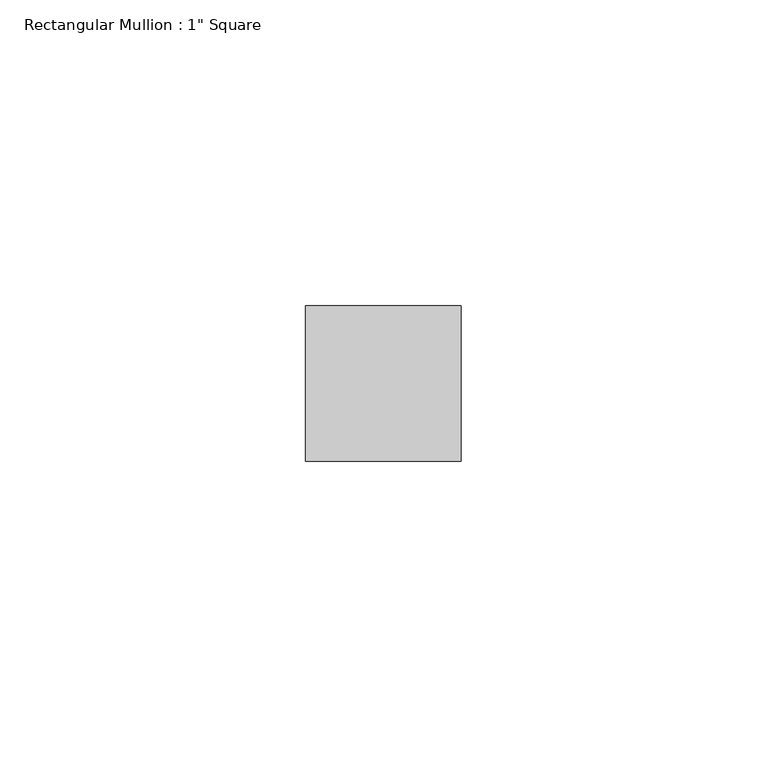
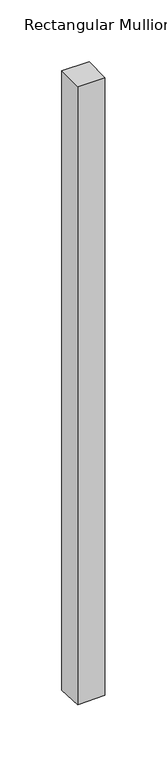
"""IFC4 building model written with IfcOpenShell, lengths in millimetres: member geometry."""

import ifcopenshell
import ifcopenshell.guid

model = None  # the IFC model being written
_history = None  # IfcOwnerHistory: only IFC2X3 demands one
_inside = {}  # id of a spatial element -> (the spatial element, [elements in it])
_under = {}  # id of a project, library or spatial element -> (it, [spatial elements below it])
_declared = {}  # id of a project -> (the project, [libraries it declares])
_typed = {}  # id of a type object -> (the type object, [elements of that type])
_made_of = {}  # id of a material, layer set ... -> (it, [elements and type objects made of it])


def new_model(schema):
    """Start an empty IFC model of exactly this schema.

    Asked for "IFC4X3", IfcOpenShell would pick the latest addendum, in which some entities
    have other attributes; the version numbers below select the first issue.
    IFC2X3 requires an IfcOwnerHistory on every rooted entity: one is made here for all.
    """
    global model, _history
    if schema == "IFC4X3":
        model = ifcopenshell.file(schema_version=(4, 3, 0, 0))
    else:
        model = ifcopenshell.file(schema=schema)
    _inside.clear()
    _under.clear()
    _declared.clear()
    _typed.clear()
    _made_of.clear()
    _history = None
    if model.schema == "IFC2X3":
        org = make("IfcOrganization", Name="unknown")
        user = make(
            "IfcPersonAndOrganization",
            ThePerson=make("IfcPerson", FamilyName="unknown"),
            TheOrganization=org,
        )
        app = make(
            "IfcApplication",
            ApplicationDeveloper=org,
            Version="unknown",
            ApplicationFullName="unknown",
            ApplicationIdentifier="unknown",
        )
        _history = make(
            "IfcOwnerHistory",
            OwningUser=user,
            OwningApplication=app,
            ChangeAction="ADDED",
            CreationDate=0,
        )
    return model


def make(cls, **values):
    """One entity of the class cls with the attributes given. An attribute that is None is left unset."""
    return model.create_entity(
        cls, **{name: value for name, value in values.items() if value is not None}
    )


def rooted(cls, **values):
    """An entity with a GlobalId (a new one), such as an element, a storey or a relation."""
    return make(cls, GlobalId=ifcopenshell.guid.new(), OwnerHistory=_history, **values)


def si_unit(unit_type, name, prefix=None):
    """IfcSIUnit, for example si_unit("LENGTHUNIT", "METRE", prefix="MILLI")."""
    return make("IfcSIUnit", UnitType=unit_type, Prefix=prefix, Name=name)


def assignment(units):
    """IfcUnitAssignment: the units of a project."""
    return None if units is None else make("IfcUnitAssignment", Units=units)


def point(xyz):
    """IfcCartesianPoint."""
    return None if xyz is None else make("IfcCartesianPoint", Coordinates=xyz)


def direction(xyz):
    """IfcDirection."""
    return None if xyz is None else make("IfcDirection", DirectionRatios=xyz)


def frame(location, z_axis=None, x_axis=None):
    """IfcAxis2Placement3D, a coordinate frame: its origin and axes. An axis left out is left unset."""
    return make(
        "IfcAxis2Placement3D",
        Location=point(location),
        Axis=direction(z_axis),
        RefDirection=direction(x_axis),
    )


def origin():
    """The frame at (0, 0, 0) with its axes left unset."""
    return frame((0.0, 0.0, 0.0))


def place(relative_to, where):
    """IfcLocalPlacement: puts the frame where relative to a parent placement (None: the world)."""
    return make(
        "IfcLocalPlacement", PlacementRelTo=relative_to, RelativePlacement=where
    )


def context(
    kind, dimensions, precision=None, world=None, true_north=None, identifier=None
):
    """IfcGeometricRepresentationContext, for example the 3D "Model" context."""
    return make(
        "IfcGeometricRepresentationContext",
        ContextIdentifier=identifier,
        ContextType=kind,
        CoordinateSpaceDimension=dimensions,
        Precision=precision,
        WorldCoordinateSystem=world,
        TrueNorth=true_north,
    )


def project(units=None, contexts=None):
    """IfcProject with its units and contexts."""
    return rooted(
        "IfcProject",
        Name="project",
        RepresentationContexts=contexts,
        UnitsInContext=assignment(units),
    )


def spatial(cls, under=None, at=None, **own):
    """A site, building, storey or space (cls), placed at a placement, below another one or the project."""
    s = rooted(cls, ObjectPlacement=at, **own)
    if under is not None:
        _under.setdefault(under.id(), (under, []))[1].append(s)
    return s


def polyline(points):
    """IfcPolyline through the points."""
    return make("IfcPolyline", Points=[point(p) for p in points])


def outline(outer, holes=None, kind="AREA"):
    """IfcArbitraryClosedProfileDef: a profile drawn as a closed curve; with holes, ...WithVoids."""
    if holes is None:
        return make("IfcArbitraryClosedProfileDef", ProfileType=kind, OuterCurve=outer)
    return make(
        "IfcArbitraryProfileDefWithVoids",
        ProfileType=kind,
        OuterCurve=outer,
        InnerCurves=holes,
    )


def extrude(swept, where, along, depth):
    """IfcExtrudedAreaSolid: the profile swept, set in the frame where, extruded along a direction by depth."""
    return make(
        "IfcExtrudedAreaSolid",
        SweptArea=swept,
        Position=where,
        ExtrudedDirection=direction(along),
        Depth=depth,
    )


def shape(context_of_items, identifier, shape_type, items):
    """IfcShapeRepresentation: the items that make up one representation, for example the "Body"."""
    return make(
        "IfcShapeRepresentation",
        ContextOfItems=context_of_items,
        RepresentationIdentifier=identifier,
        RepresentationType=shape_type,
        Items=items,
    )


def source(mapping_origin, context_of_items, identifier, shape_type, items):
    """IfcRepresentationMap: a shape defined once, which mapped items show again and again."""
    return make(
        "IfcRepresentationMap",
        MappingOrigin=mapping_origin,
        MappedRepresentation=shape(context_of_items, identifier, shape_type, items),
    )


def transform(
    local_origin,
    x_axis=None,
    y_axis=None,
    z_axis=None,
    scale=None,
    scale2=None,
    scale3=None,
    uniform=True,
):
    """IfcCartesianTransformationOperator3D, or its non-uniform kind. x_axis, y_axis, z_axis: its Axis1, 2, 3."""
    if uniform:
        return make(
            "IfcCartesianTransformationOperator3D",
            Axis1=direction(x_axis),
            Axis2=direction(y_axis),
            LocalOrigin=point(local_origin),
            Scale=scale,
            Axis3=direction(z_axis),
        )
    return make(
        "IfcCartesianTransformationOperator3DnonUniform",
        Axis1=direction(x_axis),
        Axis2=direction(y_axis),
        LocalOrigin=point(local_origin),
        Scale=scale,
        Axis3=direction(z_axis),
        Scale2=scale2,
        Scale3=scale3,
    )


def mapped(mapping_source, mapping_target):
    """IfcMappedItem: shows the shape of a source again, moved by a transform."""
    return make(
        "IfcMappedItem", MappingSource=mapping_source, MappingTarget=mapping_target
    )


def made_of(thing, what):
    """Note that an element or type object is made of a material, layer set ...; save() writes the relation."""
    if what is not None:
        _made_of.setdefault(what.id(), (what, []))[1].append(thing)
    return thing


def element(
    cls,
    number,
    at=None,
    inside=None,
    cuts=None,
    type_object=None,
    material=None,
    context=None,
    identifier="Body",
    shape_type=None,
    held_by="IfcProductDefinitionShape",
    body=None,
    shapes=None,
    **own,
):
    """One element of the class cls, such as IfcWall. Its Tag is "e" and its number.

    at: its placement. inside: the storey or other place that contains it. cuts: it is an
    opening in that element (IfcRelVoidsElement). A single representation is given by context,
    identifier, shape_type and body (its items); several are given by shapes. held_by: the class
    of the entity that holds the representations. save() writes the other relations.
    """
    e = rooted(cls, Tag="e%d" % number, ObjectPlacement=at, **own)
    if body is not None:
        shapes = [shape(context, identifier, shape_type, body)]
    if shapes is not None:
        e.Representation = make(held_by, Representations=shapes)
    if inside is not None:
        _inside.setdefault(inside.id(), (inside, []))[1].append(e)
    if cuts is not None:
        rooted(
            "IfcRelVoidsElement", RelatingBuildingElement=cuts, RelatedOpeningElement=e
        )
    if type_object is not None:
        _typed.setdefault(type_object.id(), (type_object, []))[1].append(e)
    return made_of(e, material)


def aggregate(whole, parts):
    """IfcRelAggregates: a whole, such as a stair, and the parts it consists of."""
    return rooted("IfcRelAggregates", RelatingObject=whole, RelatedObjects=parts)


def save(model, path):
    """Write the relations noted so far, then the file.

    IfcRelAggregates (storeys below a building ...), IfcRelContainedInSpatialStructure (elements
    in a storey), IfcRelDefinesByType, IfcRelAssociatesMaterial and IfcRelDeclares: one each for
    every whole, place, type object, material and project.
    """
    for whole, parts in _under.values():
        aggregate(whole, parts)
    for where, things in _inside.values():
        rooted(
            "IfcRelContainedInSpatialStructure",
            RelatedElements=things,
            RelatingStructure=where,
        )
    for kind, things in _typed.values():
        rooted("IfcRelDefinesByType", RelatedObjects=things, RelatingType=kind)
    for what, things in _made_of.values():
        rooted("IfcRelAssociatesMaterial", RelatedObjects=things, RelatingMaterial=what)
    for by, libraries in _declared.values():
        rooted("IfcRelDeclares", RelatingContext=by, RelatedDefinitions=libraries)
    model.write(path)


def member_e4cc2466(model_context):
    return source(origin(), model_context, "Body", "SweptSolid", [
        extrude(outline(polyline([(-12.7, 0.0), (12.7, 0.0), (12.7, -610.3587411), (-12.7, -608.8412589), (-12.7, 0.0)])), frame((-12.7, 0.0, 0.0), z_axis=(1.0, 0.0, 0.0), x_axis=(0.0, 1.0, 0.0)), (0.0, 0.0, 1.0), 25.4),
    ])


if __name__ == "__main__":
    model = new_model("IFC4")
    model_context = context("Model", 3, world=origin())
    ifc_project = project(units=[si_unit("LENGTHUNIT", "METRE", prefix="MILLI")], contexts=[model_context])
    site = spatial("IfcSite", under=ifc_project)
    building = spatial("IfcBuilding", under=site)
    placement = place(None, origin())
    member_shape = member_e4cc2466(model_context)
    element("IfcMember", 1, ObjectType="Rectangular Mullion : 1\" Square", at=placement, inside=building, context=model_context, shape_type="MappedRepresentation", body=[
        mapped(member_shape, transform((0.0, 0.0, 0.0), x_axis=(1.0, 0.0, 0.0), y_axis=(0.0, 1.0, 0.0), z_axis=(0.0, 0.0, 1.0))),
    ])
    save(model, "model.ifc")
